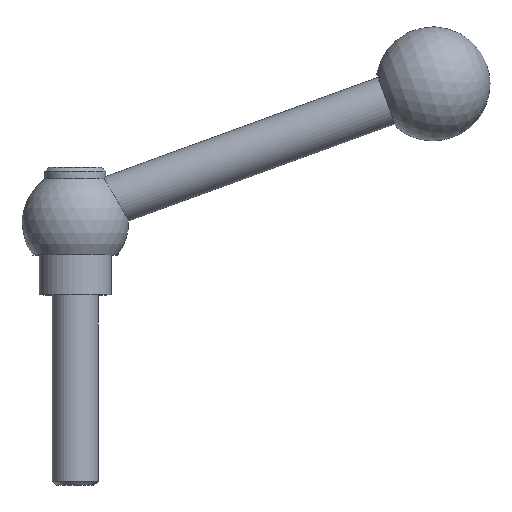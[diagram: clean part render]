
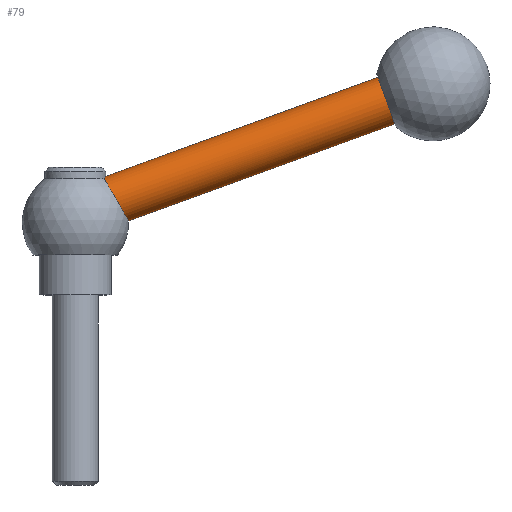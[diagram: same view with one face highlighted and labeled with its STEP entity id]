
A CAD part, top view. The second image highlights one B-rep face of the part: STEP entity #79.
In plain terms, the highlighted cylindrical face has radius 6.5 mm (diameter 13 mm), a full revolution.
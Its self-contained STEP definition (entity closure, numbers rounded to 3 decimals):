
#79 = ADVANCED_FACE( '', ( #100, #101 ), #102, .T. );
#100 = FACE_OUTER_BOUND( '', #137, .T. );
#101 = FACE_OUTER_BOUND( '', #138, .T. );
#102 = CYLINDRICAL_SURFACE( '', #139, 6.5 );
#137 = EDGE_LOOP( '', ( #184 ) );
#138 = EDGE_LOOP( '', ( #185, #186 ) );
#139 = AXIS2_PLACEMENT_3D( '', #187, #188, #189 );
#184 = ORIENTED_EDGE( '', *, *, #235, .F. );
#185 = ORIENTED_EDGE( '', *, *, #232, .F. );
#186 = ORIENTED_EDGE( '', *, *, #234, .T. );
#187 = CARTESIAN_POINT( '', ( 108.095, 60.63, 0. ) );
#188 = DIRECTION( '', ( -0.94, -0.342, 0. ) );
#189 = DIRECTION( '', ( -0.342, 0.94, 0. ) );
#232 = EDGE_CURVE( '', #248, #247, #250, .T. );
#234 = EDGE_CURVE( '', #248, #247, #253, .T. );
#235 = EDGE_CURVE( '', #254, #254, #255, .T. );
#247 = VERTEX_POINT( '', #272 );
#248 = VERTEX_POINT( '', #273 );
#250 = B_SPLINE_CURVE_WITH_KNOTS( '', 3, ( #275, #276, #277, #278, #279, #280, #281, #282, #283, #284, #285, #286, #287, #288, #289, #290, #291, #292, #293, #294, #295, #296, #297, #298, #299, #300, #301, #302, #303, #304, #305, #306, #307, #308, #309, #310, #311, #312, #313, #314, #315, #316, #317, #318, #319, #320, #321, #322, #323, #324, #325, #326, #327, #328, #329, #330, #331, #332, #333, #334, #335, #336, #337, #338, #339, #340, #341, #342, #343, #344, #345, #346 ), .UNSPECIFIED., .F., .F., ( 4, 2, 2, 2, 2, 2, 2, 2, 2, 2, 2, 2, 2, 2, 2, 2, 2, 2, 2, 2, 2, 2, 2, 2, 2, 2, 2, 2, 2, 2, 2, 2, 2, 2, 2, 4 ), ( 0., 0.001, 0.002, 0.003, 0.005, 0.006, 0.007, 0.008, 0.009, 0.01, 0.011, 0.012, 0.013, 0.014, 0.015, 0.015, 0.016, 0.017, 0.017, 0.018, 0.019, 0.02, 0.021, 0.023, 0.024, 0.025, 0.026, 0.027, 0.028, 0.029, 0.03, 0.032, 0.033, 0.034, 0.035, 0.036 ), .UNSPECIFIED. );
#253 = B_SPLINE_CURVE_WITH_KNOTS( '', 3, ( #349, #350, #351, #352, #353, #354, #355, #356, #357, #358, #359, #360, #361, #362 ), .UNSPECIFIED., .F., .F., ( 4, 2, 2, 2, 2, 2, 4 ), ( 0., 0.001, 0.002, 0.002, 0.003, 0.004, 0.005 ), .UNSPECIFIED. );
#254 = VERTEX_POINT( '', #363 );
#255 = CIRCLE( '', #364, 6.5 );
#272 = CARTESIAN_POINT( '', ( 7.623, 30.5, 2.375 ) );
#273 = CARTESIAN_POINT( '', ( 7.623, 30.5, -2.375 ) );
#275 = CARTESIAN_POINT( '', ( 7.623, 30.5, -2.375 ) );
#276 = CARTESIAN_POINT( '', ( 7.696, 30.378, -2.73 ) );
#277 = CARTESIAN_POINT( '', ( 7.784, 30.232, -3.066 ) );
#278 = CARTESIAN_POINT( '', ( 7.987, 29.891, -3.705 ) );
#279 = CARTESIAN_POINT( '', ( 8.104, 29.696, -4.009 ) );
#280 = CARTESIAN_POINT( '', ( 8.363, 29.259, -4.576 ) );
#281 = CARTESIAN_POINT( '', ( 8.504, 29.023, -4.834 ) );
#282 = CARTESIAN_POINT( '', ( 8.805, 28.514, -5.301 ) );
#283 = CARTESIAN_POINT( '', ( 8.966, 28.241, -5.51 ) );
#284 = CARTESIAN_POINT( '', ( 9.305, 27.665, -5.873 ) );
#285 = CARTESIAN_POINT( '', ( 9.479, 27.367, -6.023 ) );
#286 = CARTESIAN_POINT( '', ( 9.839, 26.751, -6.265 ) );
#287 = CARTESIAN_POINT( '', ( 10.025, 26.431, -6.357 ) );
#288 = CARTESIAN_POINT( '', ( 10.402, 25.782, -6.477 ) );
#289 = CARTESIAN_POINT( '', ( 10.59, 25.457, -6.504 ) );
#290 = CARTESIAN_POINT( '', ( 10.966, 24.805, -6.495 ) );
#291 = CARTESIAN_POINT( '', ( 11.155, 24.476, -6.459 ) );
#292 = CARTESIAN_POINT( '', ( 11.527, 23.828, -6.323 ) );
#293 = CARTESIAN_POINT( '', ( 11.707, 23.513, -6.223 ) );
#294 = CARTESIAN_POINT( '', ( 12.057, 22.899, -5.965 ) );
#295 = CARTESIAN_POINT( '', ( 12.228, 22.598, -5.804 ) );
#296 = CARTESIAN_POINT( '', ( 12.552, 22.025, -5.426 ) );
#297 = CARTESIAN_POINT( '', ( 12.704, 21.756, -5.21 ) );
#298 = CARTESIAN_POINT( '', ( 12.917, 21.378, -4.85 ) );
#299 = CARTESIAN_POINT( '', ( 12.986, 21.257, -4.723 ) );
#300 = CARTESIAN_POINT( '', ( 13.118, 21.022, -4.457 ) );
#301 = CARTESIAN_POINT( '', ( 13.182, 20.909, -4.316 ) );
#302 = CARTESIAN_POINT( '', ( 13.362, 20.588, -3.882 ) );
#303 = CARTESIAN_POINT( '', ( 13.469, 20.398, -3.575 ) );
#304 = CARTESIAN_POINT( '', ( 13.608, 20.149, -3.087 ) );
#305 = CARTESIAN_POINT( '', ( 13.651, 20.073, -2.92 ) );
#306 = CARTESIAN_POINT( '', ( 13.73, 19.931, -2.578 ) );
#307 = CARTESIAN_POINT( '', ( 13.767, 19.866, -2.401 ) );
#308 = CARTESIAN_POINT( '', ( 13.863, 19.695, -1.867 ) );
#309 = CARTESIAN_POINT( '', ( 13.911, 19.609, -1.504 ) );
#310 = CARTESIAN_POINT( '', ( 13.959, 19.522, -0.948 ) );
#311 = CARTESIAN_POINT( '', ( 13.972, 19.5, -0.761 ) );
#312 = CARTESIAN_POINT( '', ( 13.988, 19.47, -0.383 ) );
#313 = CARTESIAN_POINT( '', ( 13.992, 19.463, -0.192 ) );
#314 = CARTESIAN_POINT( '', ( 13.992, 19.462, 0.376 ) );
#315 = CARTESIAN_POINT( '', ( 13.976, 19.491, 0.751 ) );
#316 = CARTESIAN_POINT( '', ( 13.912, 19.606, 1.494 ) );
#317 = CARTESIAN_POINT( '', ( 13.863, 19.694, 1.865 ) );
#318 = CARTESIAN_POINT( '', ( 13.736, 19.922, 2.574 ) );
#319 = CARTESIAN_POINT( '', ( 13.657, 20.062, 2.915 ) );
#320 = CARTESIAN_POINT( '', ( 13.471, 20.393, 3.567 ) );
#321 = CARTESIAN_POINT( '', ( 13.363, 20.587, 3.881 ) );
#322 = CARTESIAN_POINT( '', ( 13.124, 21.012, 4.457 ) );
#323 = CARTESIAN_POINT( '', ( 12.993, 21.245, 4.722 ) );
#324 = CARTESIAN_POINT( '', ( 12.707, 21.751, 5.206 ) );
#325 = CARTESIAN_POINT( '', ( 12.552, 22.025, 5.425 ) );
#326 = CARTESIAN_POINT( '', ( 12.23, 22.594, 5.802 ) );
#327 = CARTESIAN_POINT( '', ( 12.061, 22.89, 5.961 ) );
#328 = CARTESIAN_POINT( '', ( 11.71, 23.507, 6.222 ) );
#329 = CARTESIAN_POINT( '', ( 11.526, 23.829, 6.323 ) );
#330 = CARTESIAN_POINT( '', ( 11.157, 24.472, 6.458 ) );
#331 = CARTESIAN_POINT( '', ( 10.971, 24.797, 6.495 ) );
#332 = CARTESIAN_POINT( '', ( 10.593, 25.453, 6.504 ) );
#333 = CARTESIAN_POINT( '', ( 10.401, 25.784, 6.476 ) );
#334 = CARTESIAN_POINT( '', ( 10.028, 26.427, 6.358 ) );
#335 = CARTESIAN_POINT( '', ( 9.844, 26.743, 6.268 ) );
#336 = CARTESIAN_POINT( '', ( 9.482, 27.362, 6.026 ) );
#337 = CARTESIAN_POINT( '', ( 9.304, 27.665, 5.872 ) );
#338 = CARTESIAN_POINT( '', ( 8.969, 28.236, 5.513 ) );
#339 = CARTESIAN_POINT( '', ( 8.809, 28.507, 5.307 ) );
#340 = CARTESIAN_POINT( '', ( 8.506, 29.019, 4.838 ) );
#341 = CARTESIAN_POINT( '', ( 8.363, 29.259, 4.576 ) );
#342 = CARTESIAN_POINT( '', ( 8.106, 29.691, 4.015 ) );
#343 = CARTESIAN_POINT( '', ( 7.991, 29.886, 3.715 ) );
#344 = CARTESIAN_POINT( '', ( 7.785, 30.229, 3.072 ) );
#345 = CARTESIAN_POINT( '', ( 7.696, 30.378, 2.73 ) );
#346 = CARTESIAN_POINT( '', ( 7.623, 30.5, 2.375 ) );
#349 = CARTESIAN_POINT( '', ( 7.623, 30.5, -2.375 ) );
#350 = CARTESIAN_POINT( '', ( 7.735, 30.691, -2.017 ) );
#351 = CARTESIAN_POINT( '', ( 7.825, 30.843, -1.639 ) );
#352 = CARTESIAN_POINT( '', ( 7.919, 31.001, -1.038 ) );
#353 = CARTESIAN_POINT( '', ( 7.944, 31.042, -0.831 ) );
#354 = CARTESIAN_POINT( '', ( 7.976, 31.096, -0.419 ) );
#355 = CARTESIAN_POINT( '', ( 7.984, 31.11, -0.212 ) );
#356 = CARTESIAN_POINT( '', ( 7.984, 31.11, 0.204 ) );
#357 = CARTESIAN_POINT( '', ( 7.976, 31.097, 0.414 ) );
#358 = CARTESIAN_POINT( '', ( 7.944, 31.042, 0.83 ) );
#359 = CARTESIAN_POINT( '', ( 7.92, 31.002, 1.033 ) );
#360 = CARTESIAN_POINT( '', ( 7.826, 30.845, 1.632 ) );
#361 = CARTESIAN_POINT( '', ( 7.735, 30.691, 2.016 ) );
#362 = CARTESIAN_POINT( '', ( 7.623, 30.5, 2.375 ) );
#363 = CARTESIAN_POINT( '', ( 79.561, 57.162, 0. ) );
#364 = AXIS2_PLACEMENT_3D( '', #389, #390, #391 );
#389 = CARTESIAN_POINT( '', ( 81.784, 51.054, 0. ) );
#390 = DIRECTION( '', ( 0.94, 0.342, 0. ) );
#391 = DIRECTION( '', ( -0.342, 0.94, 0. ) );
